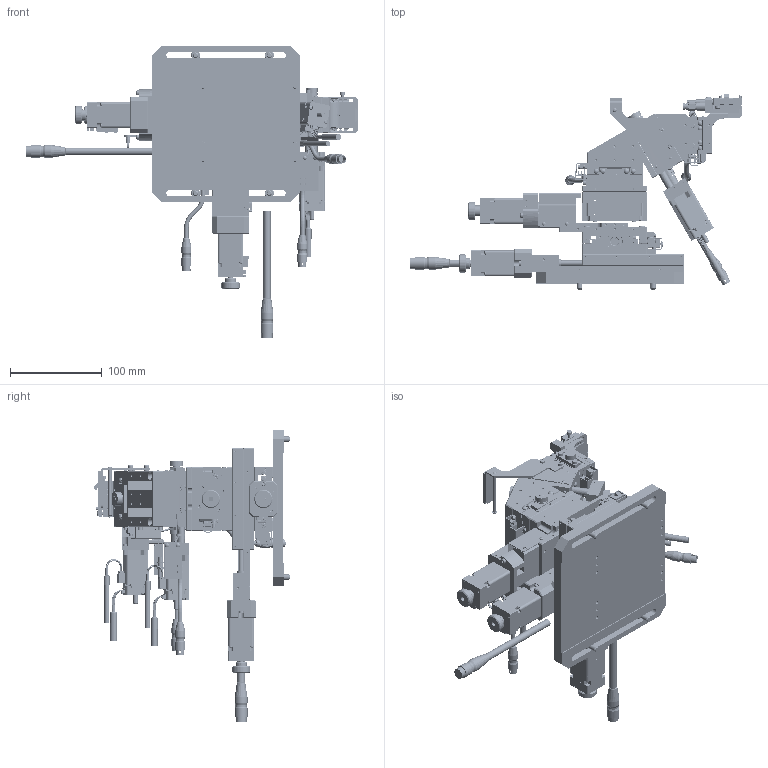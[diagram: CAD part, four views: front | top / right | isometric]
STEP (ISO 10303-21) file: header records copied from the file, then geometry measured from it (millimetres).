
FILE_DESCRIPTION (( 'STEP AP203' ), '1' );
FILE_NAME ('EW10-STL10+EW10-CHL10.STEP', '2024-08-28T05:17:02', ( '' ), ( '' ), 'SwSTEP 2.0', 'SolidWorks 2017', '' );
FILE_SCHEMA (( 'CONFIG_CONTROL_DESIGN' ));
Length unit declared in the file: millimetre
Products named in the file (84): EW10-STL10+EW10-CHL10-prt60; EW10-STL10+EW10-CHL10-prt63; EW10-STL10+EW10-CHL10-prt30; EW10-STL10+EW10-CHL10-prt13; EW10-STL10+EW10-CHL10-prt57; EW10-STL10+EW10-CHL10-prt71; EW10-STL10+EW10-CHL10-prt64; EW10-STL10+EW10-CHL10-prt46; EW10-STL10+EW10-CHL10-prt76; EW10-STL10+EW10-CHL10-prt22; EW10-STL10+EW10-CHL10-prt51; EW10-STL10+EW10-CHL10-prt74; EW10-STL10+EW10-CHL10-prt1; EW10-STL10+EW10-CHL10-prt15; EW10-STL10+EW10-CHL10-prt10; EW10-STL10+EW10-CHL10-prt20; EW10-STL10+EW10-CHL10-prt69; EW10-STL10+EW10-CHL10; EW10-STL10+EW10-CHL10-prt12; EW10-STL10+EW10-CHL10-prt18; EW10-STL10+EW10-CHL10-prt54; EW10-STL10+EW10-CHL10-prt28; EW10-STL10+EW10-CHL10-prt81; EW10-STL10+EW10-CHL10-prt59; EW10-STL10+EW10-CHL10-prt80; EW10-STL10+EW10-CHL10-prt38; EW10-STL10+EW10-CHL10-prt32; EW10-STL10+EW10-CHL10-prt8; EW10-STL10+EW10-CHL10-prt82; EW10-STL10+EW10-CHL10-prt43; EW10-STL10+EW10-CHL10-prt7; EW10-STL10+EW10-CHL10-prt62; EW10-STL10+EW10-CHL10-prt50; EW10-STL10+EW10-CHL10-prt4; EW10-STL10+EW10-CHL10-prt66; EW10-STL10+EW10-CHL10-prt42; EW10-STL10+EW10-CHL10-prt45; EW10-STL10+EW10-CHL10-prt25; EW10-STL10+EW10-CHL10-prt37; EW10-STL10+EW10-CHL10-prt23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
Assembly tree (83 placements, depth 2):
  EW10-STL10+EW10-CHL10
    EW10-STL10+EW10-CHL10-prt0
    EW10-STL10+EW10-CHL10-prt1
    EW10-STL10+EW10-CHL10-prt2
    EW10-STL10+EW10-CHL10-prt3
    EW10-STL10+EW10-CHL10-prt4
    EW10-STL10+EW10-CHL10-prt5
    EW10-STL10+EW10-CHL10-prt6
    EW10-STL10+EW10-CHL10-prt7
    EW10-STL10+EW10-CHL10-prt8
    EW10-STL10+EW10-CHL10-prt9
    EW10-STL10+EW10-CHL10-prt10
    EW10-STL10+EW10-CHL10-prt11
    EW10-STL10+EW10-CHL10-prt12
    EW10-STL10+EW10-CHL10-prt13
    EW10-STL10+EW10-CHL10-prt14
    EW10-STL10+EW10-CHL10-prt15
    EW10-STL10+EW10-CHL10-prt16
    EW10-STL10+EW10-CHL10-prt17
    EW10-STL10+EW10-CHL10-prt18
    EW10-STL10+EW10-CHL10-prt19
    EW10-STL10+EW10-CHL10-prt20
    EW10-STL10+EW10-CHL10-prt21
    EW10-STL10+EW10-CHL10-prt22
    EW10-STL10+EW10-CHL10-prt23
    EW10-STL10+EW10-CHL10-prt24
    EW10-STL10+EW10-CHL10-prt25
    EW10-STL10+EW10-CHL10-prt26
    EW10-STL10+EW10-CHL10-prt27
    EW10-STL10+EW10-CHL10-prt28
    EW10-STL10+EW10-CHL10-prt29
    EW10-STL10+EW10-CHL10-prt30
    EW10-STL10+EW10-CHL10-prt31
    EW10-STL10+EW10-CHL10-prt32
    EW10-STL10+EW10-CHL10-prt33
    EW10-STL10+EW10-CHL10-prt34
    EW10-STL10+EW10-CHL10-prt35
    EW10-STL10+EW10-CHL10-prt36
    EW10-STL10+EW10-CHL10-prt37
    EW10-STL10+EW10-CHL10-prt38
    EW10-STL10+EW10-CHL10-prt39
    EW10-STL10+EW10-CHL10-prt40
    EW10-STL10+EW10-CHL10-prt41
    EW10-STL10+EW10-CHL10-prt42
    EW10-STL10+EW10-CHL10-prt43
    EW10-STL10+EW10-CHL10-prt44
    EW10-STL10+EW10-CHL10-prt45
    EW10-STL10+EW10-CHL10-prt46
    EW10-STL10+EW10-CHL10-prt47
    EW10-STL10+EW10-CHL10-prt48
    EW10-STL10+EW10-CHL10-prt49
    EW10-STL10+EW10-CHL10-prt50
    EW10-STL10+EW10-CHL10-prt51
    EW10-STL10+EW10-CHL10-prt52
    EW10-STL10+EW10-CHL10-prt53
    EW10-STL10+EW10-CHL10-prt54
    EW10-STL10+EW10-CHL10-prt55
    EW10-STL10+EW10-CHL10-prt56
    EW10-STL10+EW10-CHL10-prt57
    EW10-STL10+EW10-CHL10-prt58
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Bounding box: 361 x 212.2 x 317.5 mm (x, y, z)
Volume: 1508178.7 mm3; surface area: 580811.1 mm2
Topology: 83 solids, 381 shells, 16786 faces, 42050 edges, 26188 vertices
Faces by surface type: plane 9290, cylinder 4625, bspline 2039, cone 425, torus 268, sphere 139
Entity records: 531301 total; most frequent: CARTESIAN_POINT 125427, DIRECTION 82314, ORIENTED_EDGE 82278, EDGE_CURVE 41139, AXIS2_PLACEMENT_3D 28366, VERTEX_POINT 26178, LINE 25582, VECTOR 25582
